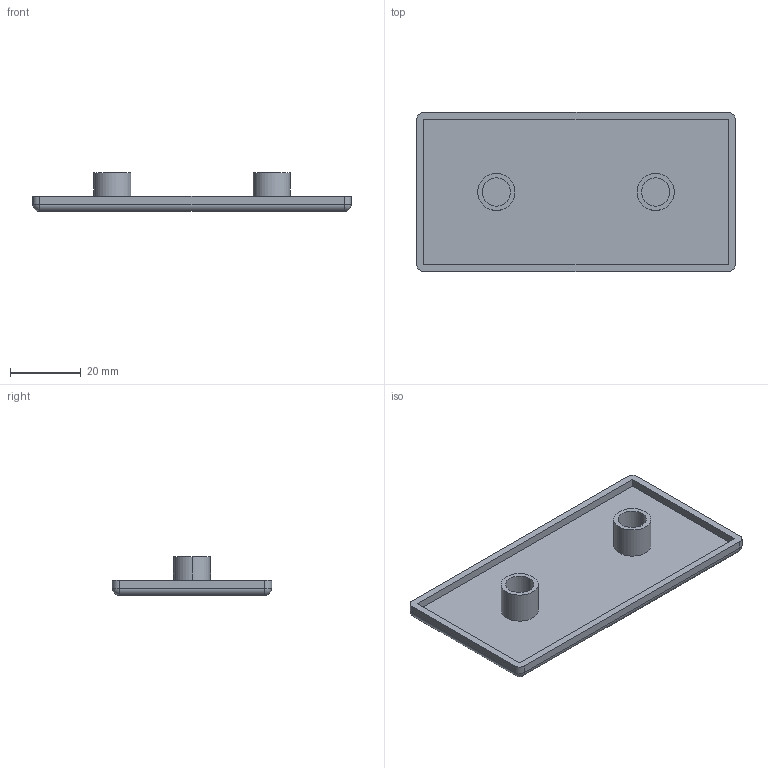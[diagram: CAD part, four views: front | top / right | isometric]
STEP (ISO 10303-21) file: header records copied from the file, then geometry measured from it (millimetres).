
FILE_DESCRIPTION (( 'STEP AP203' ), '1' );
FILE_NAME ('178-CE-CP-4590.STEP', '2015-07-09T09:16:14', ( '' ), ( '' ), 'SwSTEP 2.0', 'SolidWorks 2013', '' );
FILE_SCHEMA (( 'CONFIG_CONTROL_DESIGN' ));
Length unit declared in the file: millimetre
Products named in the file (1): 178-CE-CP-4590
Bounding box: 90 x 45 x 11 mm (x, y, z)
Volume: 9717.9 mm3; surface area: 10639.1 mm2
Topology: 1 solids, 1 shells, 35 faces, 76 edges, 44 vertices
Faces by surface type: cylinder 16, plane 15, sphere 4
Entity records: 999 total; most frequent: DIRECTION 176, CARTESIAN_POINT 152, ORIENTED_EDGE 144, EDGE_CURVE 72, AXIS2_PLACEMENT_3D 68, VERTEX_POINT 44, EDGE_LOOP 40, LINE 40
